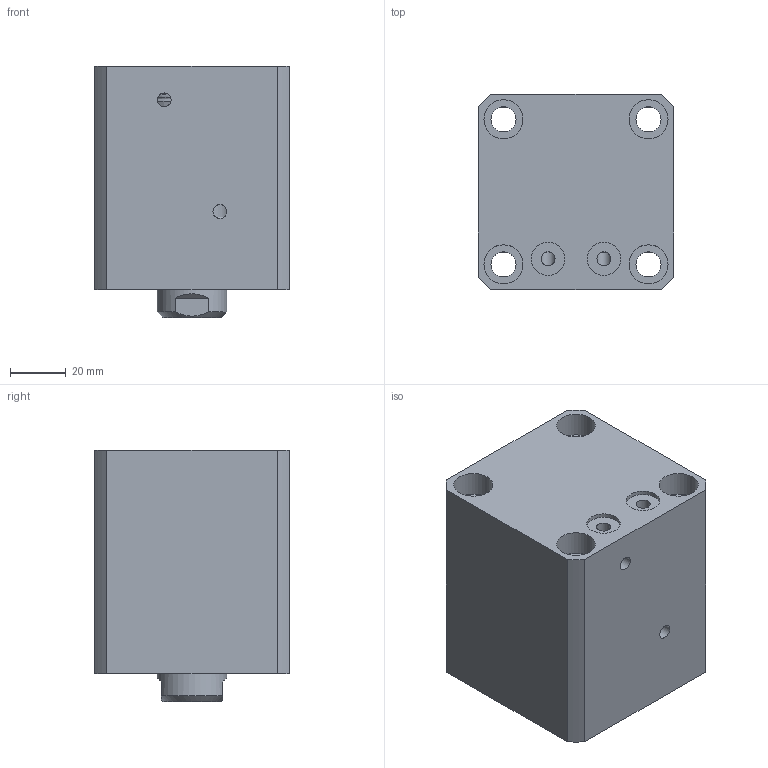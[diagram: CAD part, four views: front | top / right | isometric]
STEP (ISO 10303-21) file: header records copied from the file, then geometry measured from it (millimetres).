
FILE_DESCRIPTION(/* description */ (''),/* implementation_level */ '2;1');
FILE_NAME(/* name */ 'CHTB-sdmb40x25n.stp',/* time_stamp */ '2022-04-29T17:46:01+08:00',/* author */ (''),/* organization */ (''),/* preprocessor_version */ 'ST-DEVELOPER v16.7',/* originating_system */ 'SIEMENS PLM Software NX 12.0',/* authorisation */ '');
FILE_SCHEMA (('AUTOMOTIVE_DESIGN { 1 0 10303 214 3 1 1 1 }'));
Length unit declared in the file: millimetre
Products named in the file (1): CHTB-sdmb40x25n
Bounding box: 70 x 70 x 90 mm (x, y, z)
Volume: 336530.1 mm3; surface area: 74146 mm2
Topology: 3 solids, 3 shells, 491 faces, 1334 edges, 894 vertices
Faces by surface type: plane 317, extrusion 111, cylinder 41, torus 11, bspline 6, cone 5
Full cylindrical faces by diameter (mm): 4.2 x2, 5 x5, 9 x4, 12 x2, 14 x9, 25 x2, 29 x1, 34 x2, 40 x4, 45 x1
Entity records: 22229 total; most frequent: CARTESIAN_POINT 7755, ORIENTED_EDGE 2528, DIRECTION 1944, EDGE_CURVE 1264, VECTOR 1014, LINE 903, VERTEX_POINT 875, EDGE_LOOP 603
